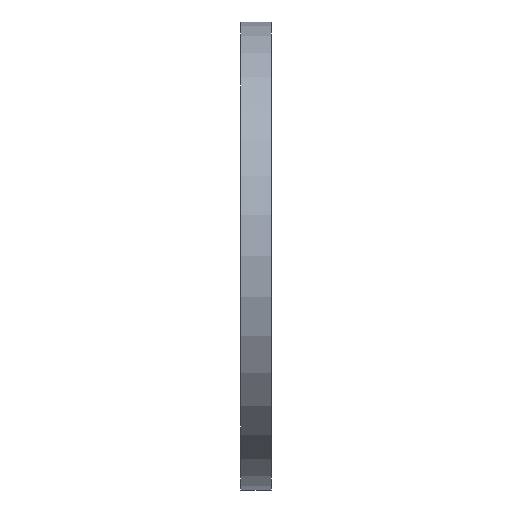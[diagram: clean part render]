
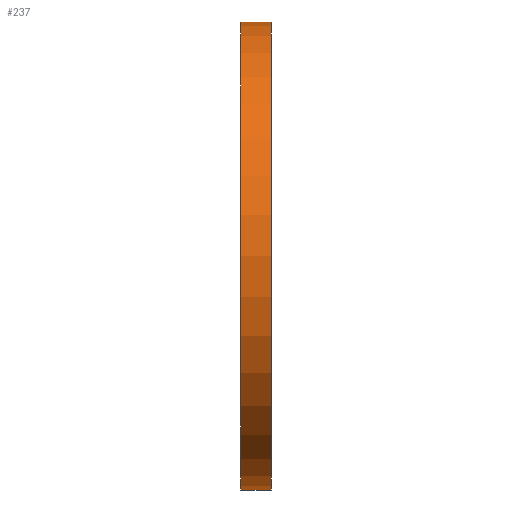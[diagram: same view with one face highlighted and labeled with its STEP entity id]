
A CAD part, left-side view. The second image highlights one B-rep face of the part: STEP entity #237.
In plain terms, the highlighted cylindrical face has radius 197.5 mm (diameter 395 mm), a partial arc.
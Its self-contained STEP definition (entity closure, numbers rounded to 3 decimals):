
#6 = AXIS2_PLACEMENT_3D ( 'NONE', #999, #172, #546 ) ;
#52 = CARTESIAN_POINT ( 'NONE',  ( 0., 26., 0. ) ) ;
#112 = CIRCLE ( 'NONE', #224, 197.5 ) ;
#172 = DIRECTION ( 'NONE',  ( 0., 1., 0. ) ) ;
#181 = ORIENTED_EDGE ( 'NONE', *, *, #477, .T. ) ;
#194 = CARTESIAN_POINT ( 'NONE',  ( 0., 26., -197.5 ) ) ;
#211 = FACE_OUTER_BOUND ( 'NONE', #878, .T. ) ;
#224 = AXIS2_PLACEMENT_3D ( 'NONE', #52, #659, #333 ) ;
#231 = VECTOR ( 'NONE', #858, 1000. ) ;
#237 = ADVANCED_FACE ( 'NONE', ( #211 ), #585, .T. ) ;
#251 = EDGE_CURVE ( 'NONE', #415, #1028, #112, .T. ) ;
#306 = DIRECTION ( 'NONE',  ( 0., 1., 0. ) ) ;
#333 = DIRECTION ( 'NONE',  ( 0., 0., 1. ) ) ;
#344 = EDGE_CURVE ( 'NONE', #924, #1001, #523, .T. ) ;
#392 = CARTESIAN_POINT ( 'NONE',  ( 0., 34.695, -197.5 ) ) ;
#415 = VERTEX_POINT ( 'NONE', #194 ) ;
#477 = EDGE_CURVE ( 'NONE', #1001, #1028, #768, .T. ) ;
#506 = CARTESIAN_POINT ( 'NONE',  ( 0., 34.695, 0. ) ) ;
#523 = CIRCLE ( 'NONE', #6, 197.5 ) ;
#546 = DIRECTION ( 'NONE',  ( 0., 0., 1. ) ) ;
#585 = CYLINDRICAL_SURFACE ( 'NONE', #751, 197.5 ) ;
#659 = DIRECTION ( 'NONE',  ( 0., 1., 0. ) ) ;
#751 = AXIS2_PLACEMENT_3D ( 'NONE', #506, #868, #965 ) ;
#768 = LINE ( 'NONE', #1051, #231 ) ;
#771 = CARTESIAN_POINT ( 'NONE',  ( 0., 26., 197.5 ) ) ;
#840 = CARTESIAN_POINT ( 'NONE',  ( 0., 0., -197.5 ) ) ;
#858 = DIRECTION ( 'NONE',  ( 0., 1., 0. ) ) ;
#863 = LINE ( 'NONE', #392, #1017 ) ;
#868 = DIRECTION ( 'NONE',  ( 0., 1., 0. ) ) ;
#878 = EDGE_LOOP ( 'NONE', ( #1164, #1009, #181, #905 ) ) ;
#905 = ORIENTED_EDGE ( 'NONE', *, *, #251, .F. ) ;
#924 = VERTEX_POINT ( 'NONE', #840 ) ;
#965 = DIRECTION ( 'NONE',  ( 0., 0., 1. ) ) ;
#999 = CARTESIAN_POINT ( 'NONE',  ( 0., 0., 0. ) ) ;
#1001 = VERTEX_POINT ( 'NONE', #1034 ) ;
#1009 = ORIENTED_EDGE ( 'NONE', *, *, #344, .T. ) ;
#1017 = VECTOR ( 'NONE', #306, 1000. ) ;
#1028 = VERTEX_POINT ( 'NONE', #771 ) ;
#1034 = CARTESIAN_POINT ( 'NONE',  ( 0., 0., 197.5 ) ) ;
#1051 = CARTESIAN_POINT ( 'NONE',  ( 0., 34.695, 197.5 ) ) ;
#1058 = EDGE_CURVE ( 'NONE', #924, #415, #863, .T. ) ;
#1164 = ORIENTED_EDGE ( 'NONE', *, *, #1058, .F. ) ;
